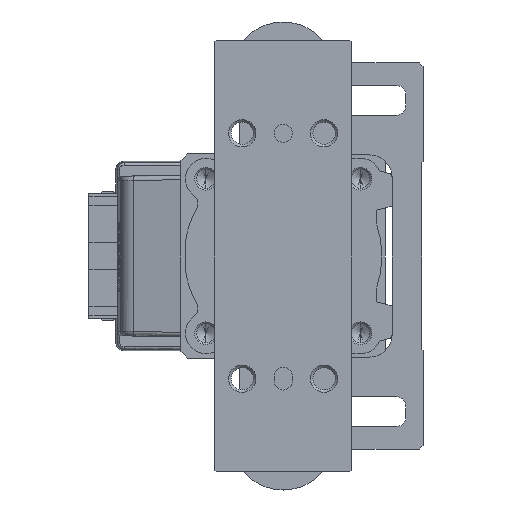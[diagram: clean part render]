
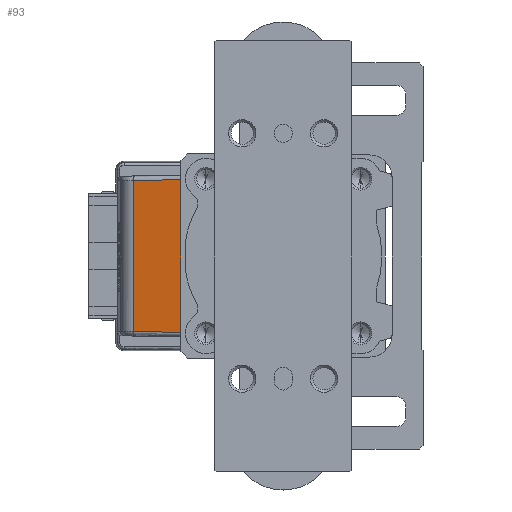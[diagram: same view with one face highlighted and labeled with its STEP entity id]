
A CAD part, left-side view. The second image highlights one B-rep face of the part: STEP entity #93.
In plain terms, the highlighted planar face has unit normal (-0.985, 0.174, 0) as drawn and (0, 0.174, 0.985) by its records, which use the part's own axes.
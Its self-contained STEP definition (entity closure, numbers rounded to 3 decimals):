
#93 = ADVANCED_FACE ( 'NONE', ( #14509 ), #2184, .F. ) ;
#2184 = PLANE ( 'NONE',  #27904 ) ;
#3667 = VERTEX_POINT ( 'NONE', #27007 ) ;
#3774 = CARTESIAN_POINT ( 'NONE',  ( 16.825, 21., -38.277 ) ) ;
#4725 = CARTESIAN_POINT ( 'NONE',  ( -16.825, 21., -38.277 ) ) ;
#5119 = CARTESIAN_POINT ( 'NONE',  ( 16.617, 32.905, -40.376 ) ) ;
#6200 = VERTEX_POINT ( 'NONE', #3774 ) ;
#8045 = DIRECTION ( 'NONE',  ( 1., 0., 0. ) ) ;
#8243 = DIRECTION ( 'NONE',  ( 0., -0.174, -0.985 ) ) ;
#9081 = CARTESIAN_POINT ( 'NONE',  ( -17.568, 32.922, -40.379 ) ) ;
#11383 = DIRECTION ( 'NONE',  ( 1., 0., 0. ) ) ;
#11579 = DIRECTION ( 'NONE',  ( -0.017, 0.985, -0.174 ) ) ;
#12212 = LINE ( 'NONE', #9081, #20691 ) ;
#14509 = FACE_OUTER_BOUND ( 'NONE', #24142, .T. ) ;
#14716 = ORIENTED_EDGE ( 'NONE', *, *, #37732, .T. ) ;
#14750 = DIRECTION ( 'NONE',  ( -1., 0., 0. ) ) ;
#16521 = EDGE_CURVE ( 'NONE', #3667, #40368, #12212, .T. ) ;
#16727 = ORIENTED_EDGE ( 'NONE', *, *, #16521, .T. ) ;
#18655 = EDGE_CURVE ( 'NONE', #38210, #6200, #40295, .T. ) ;
#18849 = LINE ( 'NONE', #41096, #18913 ) ;
#18913 = VECTOR ( 'NONE', #31476, 1000. ) ;
#20691 = VECTOR ( 'NONE', #14750, 1000. ) ;
#22787 = VECTOR ( 'NONE', #11579, 1000. ) ;
#24142 = EDGE_LOOP ( 'NONE', ( #16727, #14716, #24289, #36382 ) ) ;
#24289 = ORIENTED_EDGE ( 'NONE', *, *, #18655, .T. ) ;
#24542 = CARTESIAN_POINT ( 'NONE',  ( 0., 21., -38.277 ) ) ;
#27007 = CARTESIAN_POINT ( 'NONE',  ( 16.617, 32.922, -40.379 ) ) ;
#27904 = AXIS2_PLACEMENT_3D ( 'NONE', #37347, #8243, #8045 ) ;
#29386 = EDGE_CURVE ( 'NONE', #6200, #3667, #36729, .T. ) ;
#31476 = DIRECTION ( 'NONE',  ( -0.017, -0.985, 0.174 ) ) ;
#36069 = CARTESIAN_POINT ( 'NONE',  ( -16.617, 32.922, -40.379 ) ) ;
#36382 = ORIENTED_EDGE ( 'NONE', *, *, #29386, .T. ) ;
#36729 = LINE ( 'NONE', #5119, #22787 ) ;
#37347 = CARTESIAN_POINT ( 'NONE',  ( 0., 21.26, -38.323 ) ) ;
#37732 = EDGE_CURVE ( 'NONE', #40368, #38210, #18849, .T. ) ;
#38210 = VERTEX_POINT ( 'NONE', #4725 ) ;
#38391 = VECTOR ( 'NONE', #11383, 1000. ) ;
#40295 = LINE ( 'NONE', #24542, #38391 ) ;
#40368 = VERTEX_POINT ( 'NONE', #36069 ) ;
#41096 = CARTESIAN_POINT ( 'NONE',  ( -16.825, 20.983, -38.274 ) ) ;
